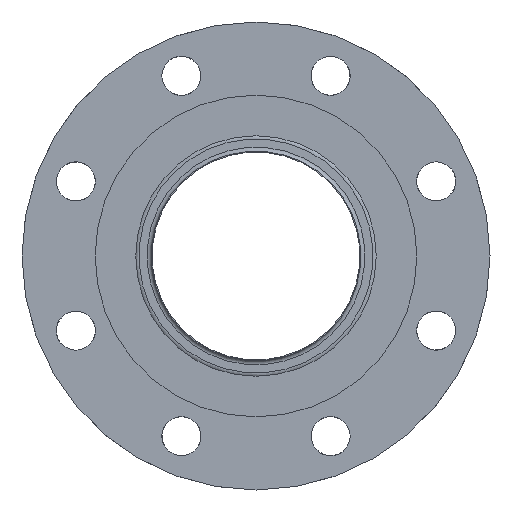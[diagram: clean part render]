
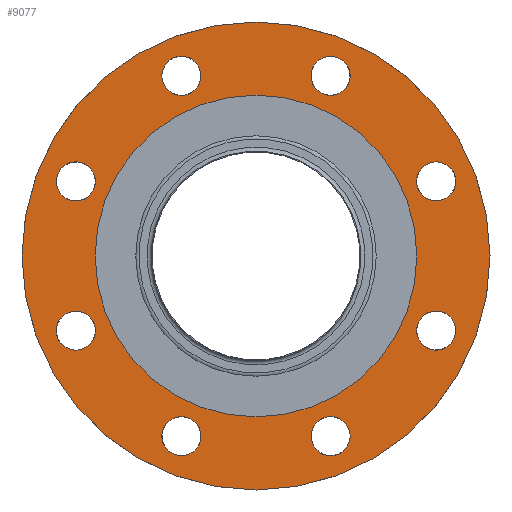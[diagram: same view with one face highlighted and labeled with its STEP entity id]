
A CAD part, front view. The second image highlights one B-rep face of the part: STEP entity #9077.
In plain terms, the highlighted planar face has unit normal (0, -1, 0) as drawn and (0, 1, 0) by its records, which use the part's own axes.
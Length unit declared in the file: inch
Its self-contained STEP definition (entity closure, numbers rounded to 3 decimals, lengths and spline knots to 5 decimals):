
#8738=CARTESIAN_POINT('',(-1.1699,0.5625,3.72971));
#8739=VERTEX_POINT('',#8738);
#8740=CARTESIAN_POINT('',(-1.43506,0.5625,3.46455));
#8741=DIRECTION('',(0.0,-1.0,0.0));
#8742=DIRECTION('',(0.707,0.0,0.707));
#8743=AXIS2_PLACEMENT_3D('',#8740,#8741,#8742);
#8744=CIRCLE('',#8743,0.375);
#8745=EDGE_CURVE('',#8739,#8739,#8744,.T.);
#8766=CARTESIAN_POINT('',(-3.46455,0.5625,1.81006));
#8767=VERTEX_POINT('',#8766);
#8768=CARTESIAN_POINT('',(-3.46455,0.5625,1.43506));
#8769=DIRECTION('',(0.0,-1.0,0.0));
#8770=DIRECTION('',(0.0,0.0,1.0));
#8771=AXIS2_PLACEMENT_3D('',#8768,#8769,#8770);
#8772=CIRCLE('',#8771,0.375);
#8773=EDGE_CURVE('',#8767,#8767,#8772,.T.);
#8794=CARTESIAN_POINT('',(-3.72971,0.5625,-1.1699));
#8795=VERTEX_POINT('',#8794);
#8796=CARTESIAN_POINT('',(-3.46455,0.5625,-1.43506));
#8797=DIRECTION('',(0.0,-1.0,0.0));
#8798=DIRECTION('',(-0.707,0.0,0.707));
#8799=AXIS2_PLACEMENT_3D('',#8796,#8797,#8798);
#8800=CIRCLE('',#8799,0.375);
#8801=EDGE_CURVE('',#8795,#8795,#8800,.T.);
#8822=CARTESIAN_POINT('',(-1.81006,0.5625,-3.46455));
#8823=VERTEX_POINT('',#8822);
#8824=CARTESIAN_POINT('',(-1.43506,0.5625,-3.46455));
#8825=DIRECTION('',(0.0,-1.0,0.0));
#8826=DIRECTION('',(-1.0,0.0,0.0));
#8827=AXIS2_PLACEMENT_3D('',#8824,#8825,#8826);
#8828=CIRCLE('',#8827,0.375);
#8829=EDGE_CURVE('',#8823,#8823,#8828,.T.);
#8850=CARTESIAN_POINT('',(1.1699,0.5625,-3.72971));
#8851=VERTEX_POINT('',#8850);
#8852=CARTESIAN_POINT('',(1.43506,0.5625,-3.46455));
#8853=DIRECTION('',(0.0,-1.0,0.0));
#8854=DIRECTION('',(-0.707,0.0,-0.707));
#8855=AXIS2_PLACEMENT_3D('',#8852,#8853,#8854);
#8856=CIRCLE('',#8855,0.375);
#8857=EDGE_CURVE('',#8851,#8851,#8856,.T.);
#8878=CARTESIAN_POINT('',(3.46455,0.5625,-1.81006));
#8879=VERTEX_POINT('',#8878);
#8880=CARTESIAN_POINT('',(3.46455,0.5625,-1.43506));
#8881=DIRECTION('',(0.0,-1.0,0.0));
#8882=DIRECTION('',(0.0,0.0,-1.0));
#8883=AXIS2_PLACEMENT_3D('',#8880,#8881,#8882);
#8884=CIRCLE('',#8883,0.375);
#8885=EDGE_CURVE('',#8879,#8879,#8884,.T.);
#8906=CARTESIAN_POINT('',(3.72971,0.5625,1.1699));
#8907=VERTEX_POINT('',#8906);
#8908=CARTESIAN_POINT('',(3.46455,0.5625,1.43506));
#8909=DIRECTION('',(0.0,-1.0,0.0));
#8910=DIRECTION('',(0.707,0.0,-0.707));
#8911=AXIS2_PLACEMENT_3D('',#8908,#8909,#8910);
#8912=CIRCLE('',#8911,0.375);
#8913=EDGE_CURVE('',#8907,#8907,#8912,.T.);
#8934=CARTESIAN_POINT('',(1.81006,0.5625,3.46455));
#8935=VERTEX_POINT('',#8934);
#8936=CARTESIAN_POINT('',(1.43506,0.5625,3.46455));
#8937=DIRECTION('',(0.0,-1.0,0.0));
#8938=DIRECTION('',(1.0,0.0,0.0));
#8939=AXIS2_PLACEMENT_3D('',#8936,#8937,#8938);
#8940=CIRCLE('',#8939,0.375);
#8941=EDGE_CURVE('',#8935,#8935,#8940,.T.);
#8962=CARTESIAN_POINT('',(3.09375,0.5625,0.));
#8963=VERTEX_POINT('',#8962);
#8964=CARTESIAN_POINT('',(0.0,0.5625,0.0));
#8965=DIRECTION('',(0.0,-1.0,0.0));
#8966=DIRECTION('',(-1.0,0.0,0.0));
#8967=AXIS2_PLACEMENT_3D('',#8964,#8965,#8966);
#8968=CIRCLE('',#8967,3.09375);
#8969=EDGE_CURVE('',#8963,#8963,#8968,.T.);
#9019=CARTESIAN_POINT('',(-4.5,0.5625,0.));
#9020=VERTEX_POINT('',#9019);
#9021=CARTESIAN_POINT('',(0.0,0.5625,0.0));
#9022=DIRECTION('',(0.0,-1.0,0.0));
#9023=DIRECTION('',(1.0,0.0,0.0));
#9024=AXIS2_PLACEMENT_3D('',#9021,#9022,#9023);
#9025=CIRCLE('',#9024,4.5);
#9026=EDGE_CURVE('',#9020,#9020,#9025,.T.);
#9042=CARTESIAN_POINT('',(0.0,0.5625,0.0));
#9043=DIRECTION('',(0.0,-1.0,0.0));
#9044=DIRECTION('',(0.0,0.0,-1.0));
#9045=AXIS2_PLACEMENT_3D('',#9042,#9043,#9044);
#9046=PLANE('',#9045);
#9047=ORIENTED_EDGE('',*,*,#9026,.F.);
#9048=EDGE_LOOP('',(#9047));
#9049=FACE_OUTER_BOUND('',#9048,.T.);
#9050=ORIENTED_EDGE('',*,*,#8745,.T.);
#9051=EDGE_LOOP('',(#9050));
#9052=FACE_BOUND('',#9051,.T.);
#9053=ORIENTED_EDGE('',*,*,#8773,.T.);
#9054=EDGE_LOOP('',(#9053));
#9055=FACE_BOUND('',#9054,.T.);
#9056=ORIENTED_EDGE('',*,*,#8801,.T.);
#9057=EDGE_LOOP('',(#9056));
#9058=FACE_BOUND('',#9057,.T.);
#9059=ORIENTED_EDGE('',*,*,#8829,.T.);
#9060=EDGE_LOOP('',(#9059));
#9061=FACE_BOUND('',#9060,.T.);
#9062=ORIENTED_EDGE('',*,*,#8857,.T.);
#9063=EDGE_LOOP('',(#9062));
#9064=FACE_BOUND('',#9063,.T.);
#9065=ORIENTED_EDGE('',*,*,#8885,.T.);
#9066=EDGE_LOOP('',(#9065));
#9067=FACE_BOUND('',#9066,.T.);
#9068=ORIENTED_EDGE('',*,*,#8913,.T.);
#9069=EDGE_LOOP('',(#9068));
#9070=FACE_BOUND('',#9069,.T.);
#9071=ORIENTED_EDGE('',*,*,#8941,.T.);
#9072=EDGE_LOOP('',(#9071));
#9073=FACE_BOUND('',#9072,.T.);
#9074=ORIENTED_EDGE('',*,*,#8969,.T.);
#9075=EDGE_LOOP('',(#9074));
#9076=FACE_BOUND('',#9075,.T.);
#9077=ADVANCED_FACE('',(#9049,#9052,#9055,#9058,#9061,#9064,#9067,#9070,#9073,#9076),#9046,.F.);
